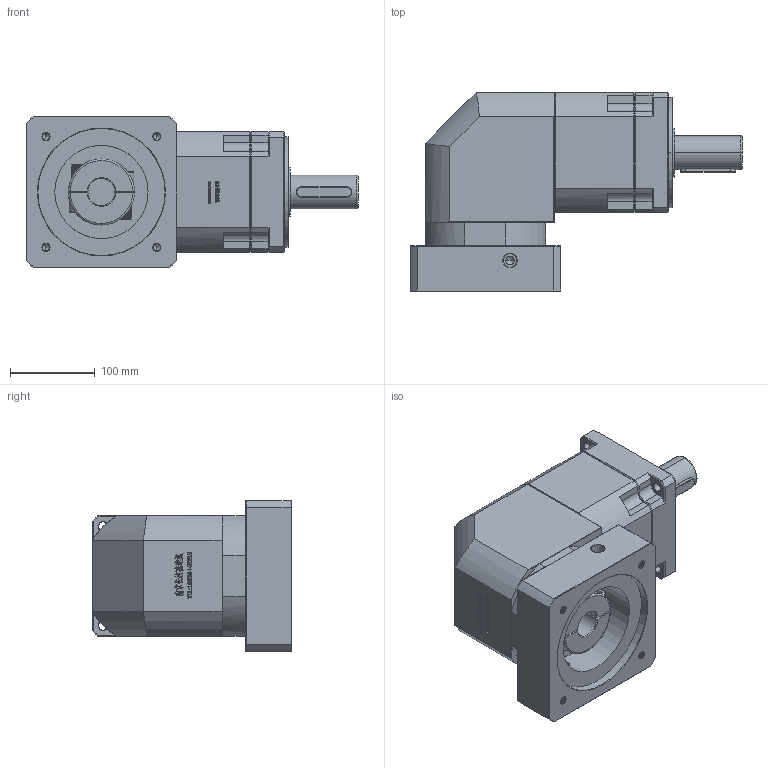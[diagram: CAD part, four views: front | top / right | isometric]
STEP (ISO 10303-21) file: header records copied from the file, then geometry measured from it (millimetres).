
FILE_DESCRIPTION (( 'STEP AP214' ), '1' );
FILE_NAME ('ZBR142A-D40-L2-32-150-185-M10.step', '2023-03-18T09:22:50', ( '' ), ( '' ), 'SwSTEP 2.0', 'SolidWorks 2016', '' );
FILE_SCHEMA (( 'AUTOMOTIVE_DESIGN' ));
Length unit declared in the file: millimetre
Products named in the file (1): ZBR142A-D40-L2-32-150-185-M10
Bounding box: 391.7 x 235 x 178 mm (x, y, z)
Volume: 6785938.6 mm3; surface area: 450160.4 mm2
Topology: 6 solids, 6 shells, 2914 faces, 7753 edges, 4988 vertices
Faces by surface type: plane 1540, bspline 596, cylinder 424, cone 332, torus 22
Entity records: 164185 total; most frequent: CARTESIAN_POINT 64382, ORIENTED_EDGE 15446, DIRECTION 11669, EDGE_CURVE 7723, LINE 5219, VECTOR 5219, VERTEX_POINT 4988, AXIS2_PLACEMENT_3D 3225
